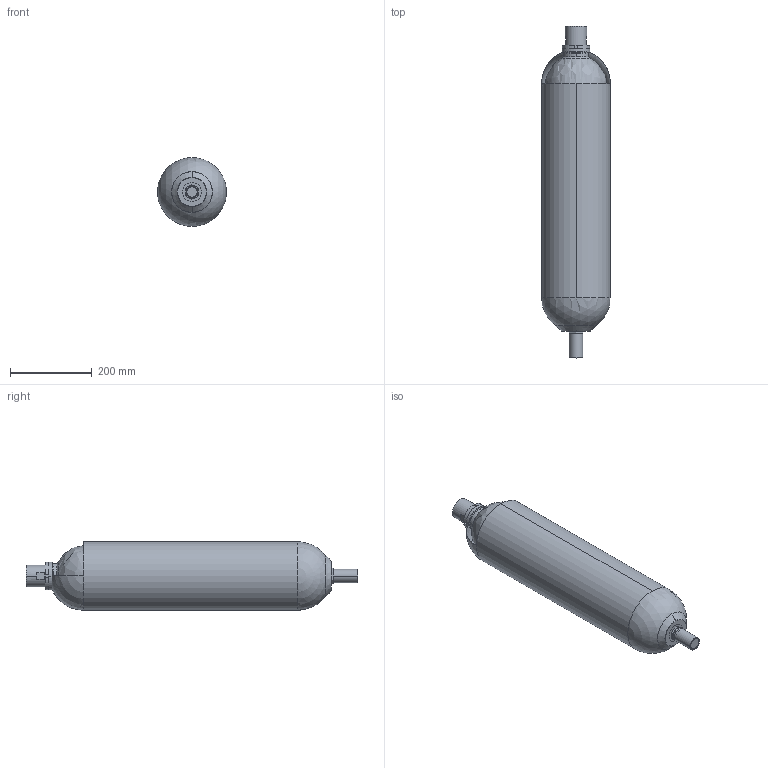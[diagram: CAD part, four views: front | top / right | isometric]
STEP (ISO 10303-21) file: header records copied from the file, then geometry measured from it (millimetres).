
FILE_DESCRIPTION((''),'2;1');
FILE_NAME('EHV_10_350_90.stp','2011-02-28T16:48:01',(''),(''),'Mechanical Desktop 2009','Mechanical Desktop 2009',', , ');
FILE_SCHEMA(('CONFIG_CONTROL_DESIGN'));
Length unit declared in the file: millimetre
Products named in the file (20): DESSIN11; AD108597-01125; CA108600-00190(1); CA108600-00190; BC108570-00220; BE100016-00200(1); BE100016-00200; BM108569-00200; CB108568-00200(1); CB108568-00200; EC100987-00200(1); EC100987-00200; EC102958-00200(1); EC102958-00200; BP102851-00200; BOUCHON DE PROTECTION; BOUCHON PLASTIQUE; PF108572-05200(1); PF108572-05200; GABARIT
Assembly tree (19 placements, depth 6):
  DESSIN11
    AD108597-01125
      CA108600-00190(1)
        CA108600-00190
      BC108570-00220
        BE100016-00200(1)
          BE100016-00200
        BM108569-00200
          CB108568-00200(1)
            CB108568-00200
        EC100987-00200(1)
          EC100987-00200
      EC102958-00200(1)
        EC102958-00200
      BP102851-00200
        BOUCHON DE PROTECTION
        BOUCHON PLASTIQUE
      PF108572-05200(1)
        PF108572-05200
    GABARIT
Bounding box: 168.3 x 810.9 x 168.3 mm (x, y, z)
Volume: 827796 mm3; surface area: 807183.7 mm2
Topology: 8 solids, 8 shells, 199 faces, 488 edges, 302 vertices
Faces by surface type: cylinder 76, plane 56, cone 46, bspline 12, torus 6, sphere 3
Entity records: 6797 total; most frequent: CARTESIAN_POINT 1725, DIRECTION 1114, ORIENTED_EDGE 922, AXIS2_PLACEMENT_3D 470, EDGE_CURVE 461, VERTEX_POINT 295, CIRCLE 263, EDGE_LOOP 242
